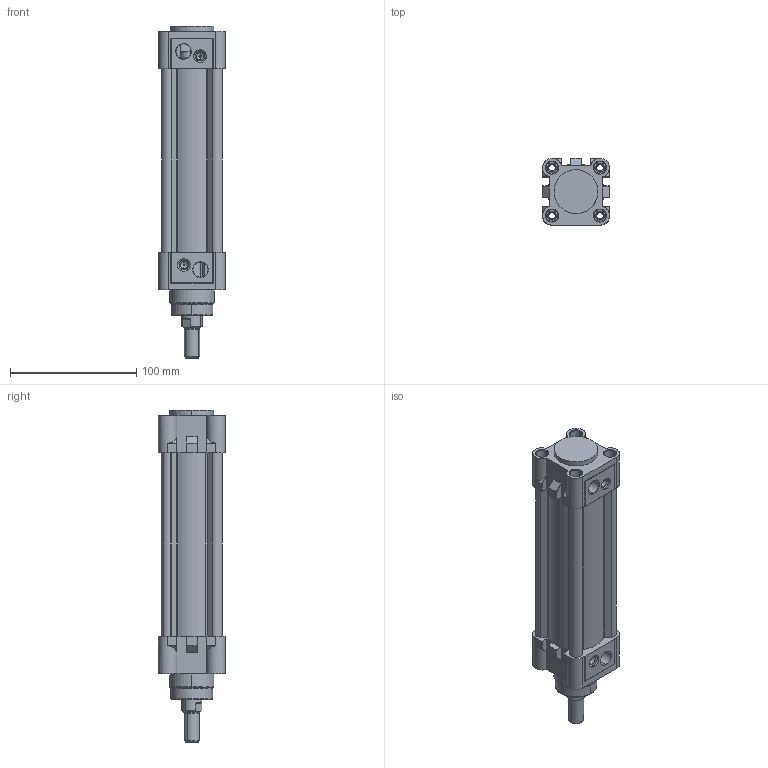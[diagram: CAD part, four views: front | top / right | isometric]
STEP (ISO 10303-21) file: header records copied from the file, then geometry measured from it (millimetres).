
FILE_DESCRIPTION (( 'STEP AP203' ), '1' );
FILE_NAME ('MDNC40X100CYLINDER.STEP', '2016-03-29T07:42:45', ( 'user' ), ( '' ), 'SwSTEP 2.0', 'SolidWorks 2013', '' );
FILE_SCHEMA (( 'CONFIG_CONTROL_DESIGN' ));
Length unit declared in the file: millimetre
Products named in the file (6): PÝSTON MÝLÝ 40X100; MDNC40X100CYLINDER; 烰 KAPAK  40; ARKA KAPAK 40; MDNC 40X100 BORU; ORTA PÝSTON 40
Assembly tree (5 placements, depth 2):
  MDNC40X100CYLINDER
    烰 KAPAK  40
    ARKA KAPAK 40
    MDNC 40X100 BORU
    ORTA PÝSTON 40
    PÝSTON MÝLÝ 40X100
Bounding box: 53 x 53.3 x 263 mm (x, y, z)
Volume: 275182.9 mm3; surface area: 127279.6 mm2
Topology: 6 solids, 6 shells, 617 faces, 1554 edges, 991 vertices
Faces by surface type: cylinder 297, plane 177, cone 85, bspline 48, torus 10
Entity records: 26281 total; most frequent: CARTESIAN_POINT 11603, ORIENTED_EDGE 3084, DIRECTION 2683, EDGE_CURVE 1542, AXIS2_PLACEMENT_3D 1031, VERTEX_POINT 991, EDGE_LOOP 713, LINE 621
